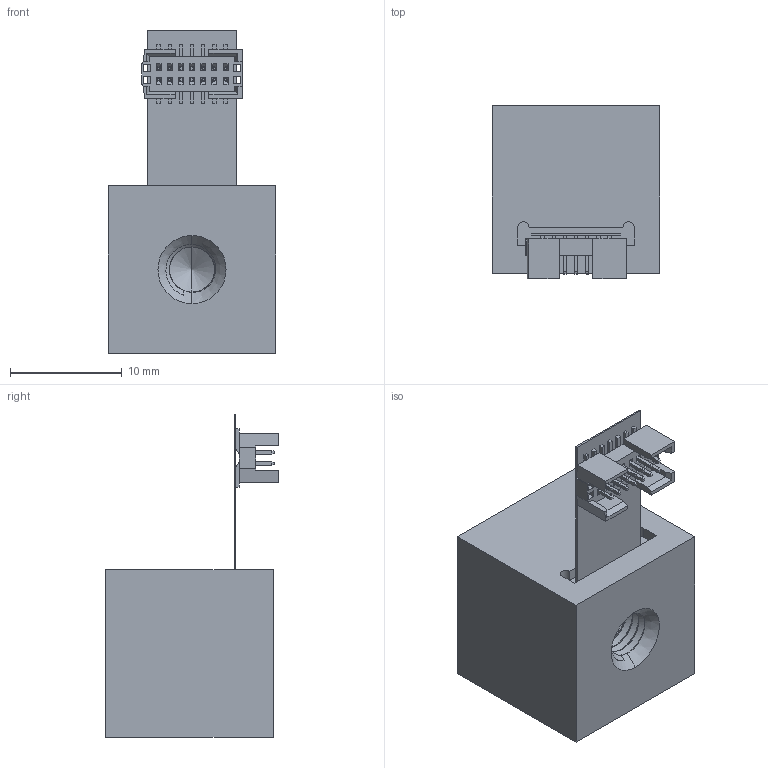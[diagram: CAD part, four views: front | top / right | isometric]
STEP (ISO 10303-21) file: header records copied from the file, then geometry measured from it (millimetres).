
FILE_DESCRIPTION (( 'STEP AP214' ), '1' );
FILE_NAME ('ADIS16223.STEP', '2012-02-16T19:34:22', ( 'Rodney Brand' ), ( 'Analog Devices Inc.' ), 'SwSTEP 2.0', 'SolidWorks 2009', '' );
FILE_SCHEMA (( 'AUTOMOTIVE_DESIGN' ));
Length unit declared in the file: millimetre
Products named in the file (5): FTMH-107-03-X-DV-ES; ADIS16223; ASP-119097-01T-1S16_-03 FTMH; ASP-119097-01FTMH-ES
Assembly tree (17 placements, depth 3):
  ADIS16223
    ADIS16223
    FTMH-107-03-X-DV-ES
      ASP-119097-01T-1S16_-03 FTMH  x14
      ASP-119097-01FTMH-ES
Bounding box: 15 x 15.56 x 28.88 mm (x, y, z)
Volume: 3264.2 mm3; surface area: 2166.1 mm2
Topology: 16 solids, 16 shells, 989 faces, 2597 edges, 1673 vertices
Faces by surface type: plane 693, bspline 236, cylinder 56, cone 4
Entity records: 42918 total; most frequent: CARTESIAN_POINT 18244, ORIENTED_EDGE 4358, DIRECTION 2847, EDGE_CURVE 2179, LINE 1635, VECTOR 1635, VERTEX_POINT 1413, EDGE_LOOP 878
